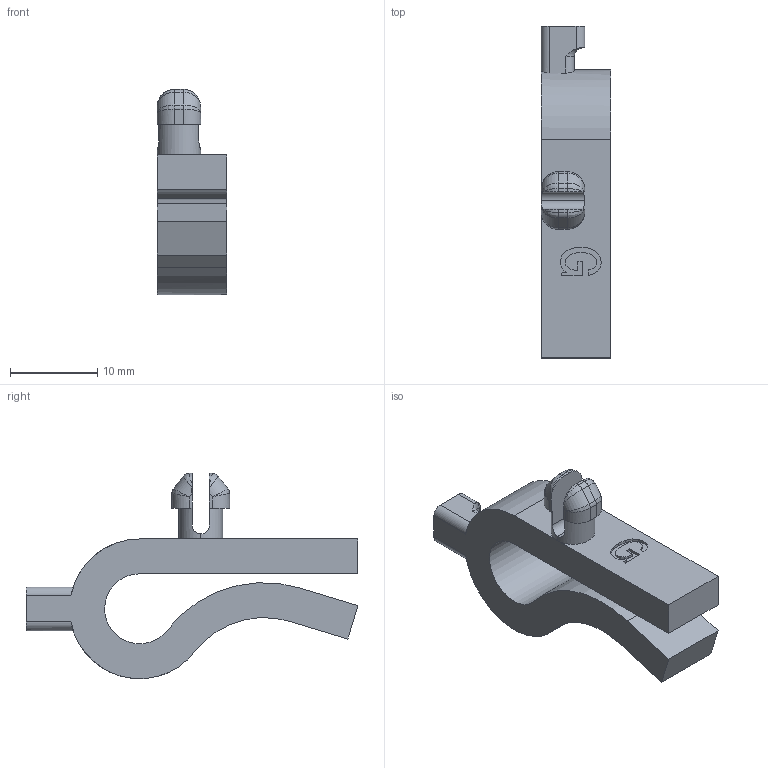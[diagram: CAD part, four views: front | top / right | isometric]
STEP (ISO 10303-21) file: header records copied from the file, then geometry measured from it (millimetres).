
FILE_DESCRIPTION(('CATIA V5 STEP Exchange'),'2;1');
FILE_NAME('C:\Users\FBAERT\Documents\Vis Casque\Clips GF.stp','2020-04-09T16:09:56+00:00',('none'),('none'),'CATIA Version 5 Release 20 GA (IN-10)','CATIA V5 STEP AP203','none');
FILE_SCHEMA(('CONFIG_CONTROL_DESIGN'));
Length unit declared in the file: millimetre
Products named in the file (1): Clips G
Bounding box: 8 x 38 x 23.48 mm (x, y, z)
Volume: 2476.3 mm3; surface area: 2035.8 mm2
Topology: 1 solids, 1 shells, 114 faces, 309 edges, 194 vertices
Faces by surface type: plane 73, cylinder 31, bspline 8, torus 2
Entity records: 3926 total; most frequent: CARTESIAN_POINT 1207, ORIENTED_EDGE 610, DIRECTION 451, EDGE_CURVE 305, VECTOR 221, LINE 221, VERTEX_POINT 194, AXIS2_PLACEMENT_3D 136
